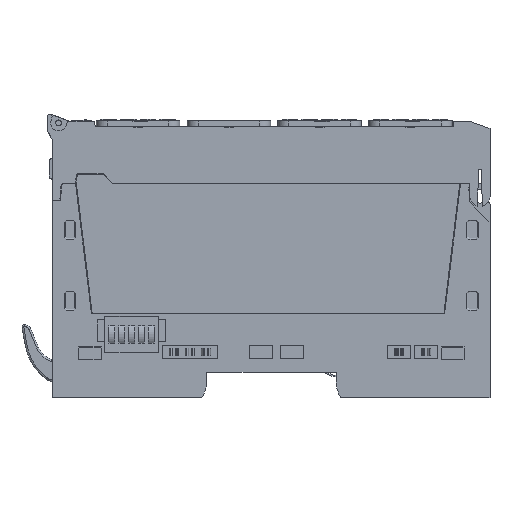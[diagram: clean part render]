
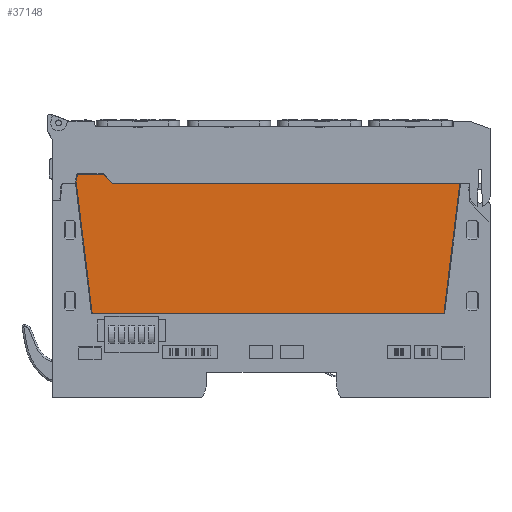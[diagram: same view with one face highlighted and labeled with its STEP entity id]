
A CAD part, top view. The second image highlights one B-rep face of the part: STEP entity #37148.
In plain terms, the highlighted planar face has unit normal (0, 0, 1).
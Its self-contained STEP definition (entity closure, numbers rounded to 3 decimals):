
#37095=AXIS2_PLACEMENT_3D('Plane Axis2P3D',#37092,#37093,#37094) ;
#37120=AXIS2_PLACEMENT_3D('Circle Axis2P3D',#37118,#37119,$) ;
#32526=CARTESIAN_POINT('Vertex',(47.15,16.1,11.5)) ;
#32529=CARTESIAN_POINT('Line Origine',(-0.9,16.1,11.5)) ;
#32533=CARTESIAN_POINT('Vertex',(-48.95,16.1,11.5)) ;
#37021=CARTESIAN_POINT('Vertex',(-43.396,51.5,11.5)) ;
#37024=CARTESIAN_POINT('Line Origine',(4.05,51.5,11.5)) ;
#37028=CARTESIAN_POINT('Vertex',(51.497,51.5,11.5)) ;
#37080=CARTESIAN_POINT('Line Origine',(49.323,33.8,11.5)) ;
#37092=CARTESIAN_POINT('Axis2P3D Location',(0.,0.,11.5)) ;
#37097=CARTESIAN_POINT('Line Origine',(-51.123,33.8,11.5)) ;
#37101=CARTESIAN_POINT('Vertex',(-53.297,51.5,11.5)) ;
#37104=CARTESIAN_POINT('Line Origine',(-44.684,52.8,11.5)) ;
#37108=CARTESIAN_POINT('Vertex',(-45.971,54.1,11.5)) ;
#37111=CARTESIAN_POINT('Line Origine',(-49.265,54.1,11.5)) ;
#37115=CARTESIAN_POINT('Vertex',(-52.558,54.1,11.5)) ;
#37118=CARTESIAN_POINT('Axis2P3D Location',(-52.558,53.6,11.5)) ;
#37122=CARTESIAN_POINT('Vertex',(-53.051,53.686,11.5)) ;
#37125=CARTESIAN_POINT('Line Origine',(-53.174,52.982,11.5)) ;
#37129=CARTESIAN_POINT('Vertex',(-53.297,52.277,11.5)) ;
#37132=CARTESIAN_POINT('Line Origine',(-53.297,51.889,11.5)) ;
#32530=DIRECTION('Vector Direction',(-1.,0.,0.)) ;
#37025=DIRECTION('Vector Direction',(1.,0.,0.)) ;
#37081=DIRECTION('Vector Direction',(0.122,0.993,0.)) ;
#37093=DIRECTION('Axis2P3D Direction',(0.,0.,1.)) ;
#37094=DIRECTION('Axis2P3D XDirection',(1.,0.,0.)) ;
#37098=DIRECTION('Vector Direction',(0.122,-0.993,0.)) ;
#37105=DIRECTION('Vector Direction',(-0.704,0.71,0.)) ;
#37112=DIRECTION('Vector Direction',(-1.,0.,0.)) ;
#37119=DIRECTION('Axis2P3D Direction',(0.,0.,1.)) ;
#37126=DIRECTION('Vector Direction',(-0.172,-0.985,0.)) ;
#37133=DIRECTION('Vector Direction',(0.,-1.,0.)) ;
#32531=VECTOR('Line Direction',#32530,1.) ;
#37026=VECTOR('Line Direction',#37025,1.) ;
#37082=VECTOR('Line Direction',#37081,1.) ;
#37099=VECTOR('Line Direction',#37098,1.) ;
#37106=VECTOR('Line Direction',#37105,1.) ;
#37113=VECTOR('Line Direction',#37112,1.) ;
#37127=VECTOR('Line Direction',#37126,1.) ;
#37134=VECTOR('Line Direction',#37133,1.) ;
#37138=ORIENTED_EDGE('',*,*,#37103,.T.) ;
#37139=ORIENTED_EDGE('',*,*,#32535,.T.) ;
#37140=ORIENTED_EDGE('',*,*,#37084,.T.) ;
#37141=ORIENTED_EDGE('',*,*,#37030,.T.) ;
#37142=ORIENTED_EDGE('',*,*,#37110,.T.) ;
#37143=ORIENTED_EDGE('',*,*,#37117,.T.) ;
#37144=ORIENTED_EDGE('',*,*,#37124,.T.) ;
#37145=ORIENTED_EDGE('',*,*,#37131,.T.) ;
#37146=ORIENTED_EDGE('',*,*,#37136,.T.) ;
#37148=ADVANCED_FACE('ELGH_BASIC',(#37147),#37096,.T.) ;
#37121=CIRCLE('generated circle',#37120,0.5) ;
#32535=EDGE_CURVE('',#32534,#32527,#32532,.F.) ;
#37030=EDGE_CURVE('',#37029,#37022,#37027,.F.) ;
#37084=EDGE_CURVE('',#32527,#37029,#37083,.T.) ;
#37103=EDGE_CURVE('',#37102,#32534,#37100,.T.) ;
#37110=EDGE_CURVE('',#37022,#37109,#37107,.T.) ;
#37117=EDGE_CURVE('',#37109,#37116,#37114,.T.) ;
#37124=EDGE_CURVE('',#37116,#37123,#37121,.T.) ;
#37131=EDGE_CURVE('',#37123,#37130,#37128,.T.) ;
#37136=EDGE_CURVE('',#37130,#37102,#37135,.T.) ;
#37137=EDGE_LOOP('',(#37138,#37139,#37140,#37141,#37142,#37143,#37144,#37145,#37146)) ;
#37147=FACE_OUTER_BOUND('',#37137,.T.) ;
#32532=LINE('Line',#32529,#32531) ;
#37027=LINE('Line',#37024,#37026) ;
#37083=LINE('Line',#37080,#37082) ;
#37100=LINE('Line',#37097,#37099) ;
#37107=LINE('Line',#37104,#37106) ;
#37114=LINE('Line',#37111,#37113) ;
#37128=LINE('Line',#37125,#37127) ;
#37135=LINE('Line',#37132,#37134) ;
#37096=PLANE('',#37095) ;
#32527=VERTEX_POINT('',#32526) ;
#32534=VERTEX_POINT('',#32533) ;
#37022=VERTEX_POINT('',#37021) ;
#37029=VERTEX_POINT('',#37028) ;
#37102=VERTEX_POINT('',#37101) ;
#37109=VERTEX_POINT('',#37108) ;
#37116=VERTEX_POINT('',#37115) ;
#37123=VERTEX_POINT('',#37122) ;
#37130=VERTEX_POINT('',#37129) ;
